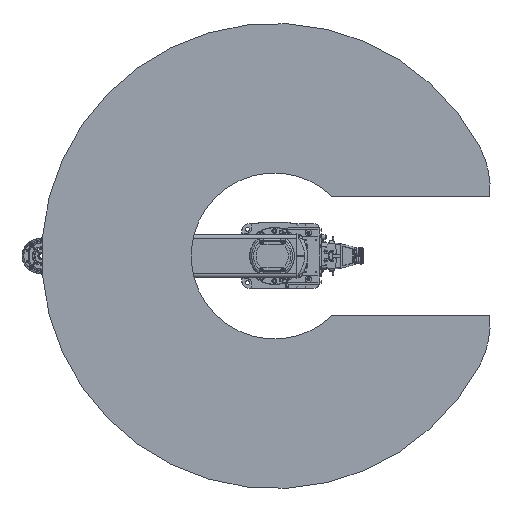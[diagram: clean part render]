
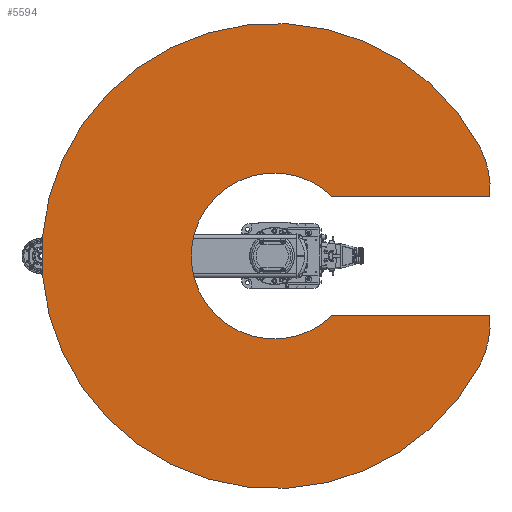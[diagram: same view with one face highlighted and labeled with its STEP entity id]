
A CAD part, front view. The second image highlights one B-rep face of the part: STEP entity #5594.
In plain terms, the highlighted planar face has unit normal (0, -1, 0).
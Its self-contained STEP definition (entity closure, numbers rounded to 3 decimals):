
#5594 = ADVANCED_FACE( '', ( #13067 ), #13068, .F. );
#13067 = FACE_OUTER_BOUND( '', #22902, .T. );
#13068 = PLANE( '', #22903 );
#22902 = EDGE_LOOP( '', ( #39096, #39097, #39098, #39099, #39100, #39101 ) );
#22903 = AXIS2_PLACEMENT_3D( '', #39102, #39103, #39104 );
#39096 = ORIENTED_EDGE( '', *, *, #56296, .T. );
#39097 = ORIENTED_EDGE( '', *, *, #56297, .F. );
#39098 = ORIENTED_EDGE( '', *, *, #56298, .F. );
#39099 = ORIENTED_EDGE( '', *, *, #54162, .F. );
#39100 = ORIENTED_EDGE( '', *, *, #56299, .T. );
#39101 = ORIENTED_EDGE( '', *, *, #56300, .T. );
#39102 = CARTESIAN_POINT( '', ( 93.894, 0., 176.59 ) );
#39103 = DIRECTION( '', ( 0., 1., 0. ) );
#39104 = DIRECTION( '', ( 0., 0., 1. ) );
#54162 = EDGE_CURVE( '', #65266, #65269, #65270, .T. );
#56296 = EDGE_CURVE( '', #68463, #68464, #68465, .T. );
#56297 = EDGE_CURVE( '', #68466, #68464, #68467, .T. );
#56298 = EDGE_CURVE( '', #65269, #68466, #68468, .T. );
#56299 = EDGE_CURVE( '', #65266, #68469, #68470, .T. );
#56300 = EDGE_CURVE( '', #68469, #68463, #68471, .T. );
#65266 = VERTEX_POINT( '', #82471 );
#65269 = VERTEX_POINT( '', #82475 );
#65270 = CIRCLE( '', #82476, 250. );
#68463 = VERTEX_POINT( '', #88098 );
#68464 = VERTEX_POINT( '', #88099 );
#68465 = LINE( '', #88100, #88101 );
#68466 = VERTEX_POINT( '', #88102 );
#68467 = CIRCLE( '', #88103, 250. );
#68468 = CIRCLE( '', #88104, 650. );
#68469 = VERTEX_POINT( '', #88105 );
#68470 = LINE( '', #88106, #88107 );
#68471 = CIRCLE( '', #88108, 232. );
#82471 = CARTESIAN_POINT( '', ( 165., 0., 602.138 ) );
#82475 = CARTESIAN_POINT( '', ( 305.157, 0., 573.916 ) );
#82476 = AXIS2_PLACEMENT_3D( '', #98198, #98199, #98200 );
#88098 = CARTESIAN_POINT( '', ( -165., 0., 163.092 ) );
#88099 = CARTESIAN_POINT( '', ( -165., 0., 602.138 ) );
#88100 = CARTESIAN_POINT( '', ( -165., 0., 0. ) );
#88101 = VECTOR( '', #100858, 1000. );
#88102 = CARTESIAN_POINT( '', ( -305.157, 0., 573.916 ) );
#88103 = AXIS2_PLACEMENT_3D( '', #100859, #100860, #100861 );
#88104 = AXIS2_PLACEMENT_3D( '', #100862, #100863, #100864 );
#88105 = CARTESIAN_POINT( '', ( 165., 0., 163.092 ) );
#88106 = CARTESIAN_POINT( '', ( 165., 0., 650. ) );
#88107 = VECTOR( '', #100865, 1000. );
#88108 = AXIS2_PLACEMENT_3D( '', #100866, #100867, #100868 );
#98198 = CARTESIAN_POINT( '', ( 187.789, 0., 353.179 ) );
#98199 = DIRECTION( '', ( 0., 1., 0. ) );
#98200 = DIRECTION( '', ( 1., 0., 0. ) );
#100858 = DIRECTION( '', ( 0., 0., 1. ) );
#100859 = CARTESIAN_POINT( '', ( -187.789, 0., 353.179 ) );
#100860 = DIRECTION( '', ( 0., 1., 0. ) );
#100861 = DIRECTION( '', ( 1., 0., 0. ) );
#100862 = CARTESIAN_POINT( '', ( 0., 0., 0. ) );
#100863 = DIRECTION( '', ( 0., 1., 0. ) );
#100864 = DIRECTION( '', ( 1., 0., 0. ) );
#100865 = DIRECTION( '', ( 0., 0., -1. ) );
#100866 = CARTESIAN_POINT( '', ( 0., 0., 0. ) );
#100867 = DIRECTION( '', ( 0., 1., 0. ) );
#100868 = DIRECTION( '', ( 1., 0., 0. ) );
